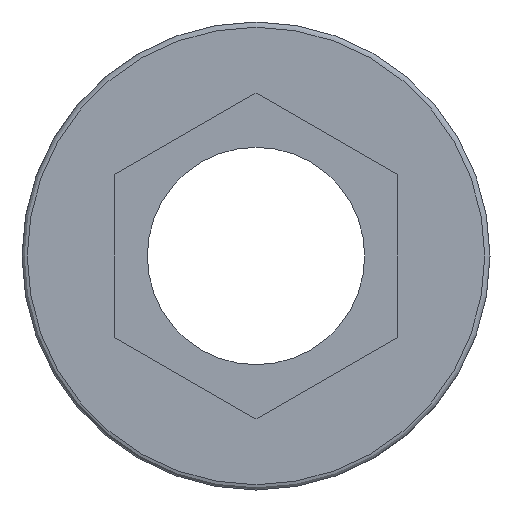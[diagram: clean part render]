
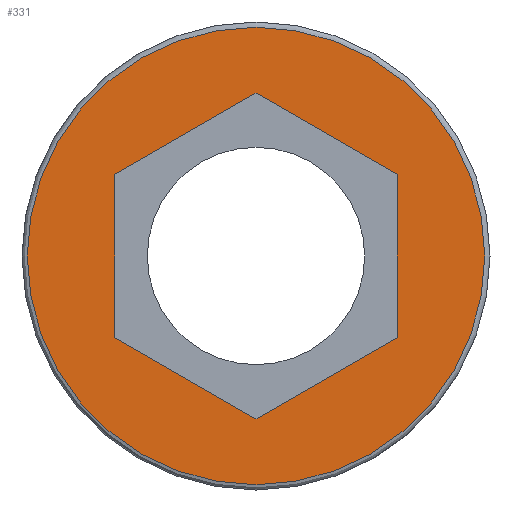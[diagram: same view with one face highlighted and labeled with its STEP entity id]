
A CAD part, front view. The second image highlights one B-rep face of the part: STEP entity #331.
In plain terms, the highlighted planar face has unit normal (0, -1, 0).
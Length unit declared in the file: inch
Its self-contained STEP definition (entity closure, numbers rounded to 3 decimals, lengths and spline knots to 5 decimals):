
#17=FACE_BOUND('',#108,.T.);
#22=PLANE('',#378);
#34=LINE('',#550,#57);
#35=LINE('',#552,#58);
#36=LINE('',#554,#59);
#37=LINE('',#556,#60);
#38=LINE('',#558,#61);
#39=LINE('',#559,#62);
#57=VECTOR('',#446,0.3937);
#58=VECTOR('',#447,0.3937);
#59=VECTOR('',#448,0.3937);
#60=VECTOR('',#449,0.3937);
#61=VECTOR('',#450,0.3937);
#62=VECTOR('',#451,0.3937);
#87=FACE_OUTER_BOUND('',#107,.T.);
#107=EDGE_LOOP('',(#253,#254));
#108=EDGE_LOOP('',(#255,#256,#257,#258,#259,#260));
#132=CIRCLE('',#370,0.303);
#136=CIRCLE('',#374,0.303);
#155=VERTEX_POINT('',#532);
#156=VERTEX_POINT('',#533);
#161=VERTEX_POINT('',#548);
#162=VERTEX_POINT('',#549);
#163=VERTEX_POINT('',#551);
#164=VERTEX_POINT('',#553);
#165=VERTEX_POINT('',#555);
#166=VERTEX_POINT('',#557);
#190=EDGE_CURVE('',#155,#156,#132,.T.);
#194=EDGE_CURVE('',#156,#155,#136,.T.);
#198=EDGE_CURVE('',#161,#162,#34,.T.);
#199=EDGE_CURVE('',#162,#163,#35,.T.);
#200=EDGE_CURVE('',#163,#164,#36,.T.);
#201=EDGE_CURVE('',#164,#165,#37,.T.);
#202=EDGE_CURVE('',#165,#166,#38,.T.);
#203=EDGE_CURVE('',#166,#161,#39,.T.);
#253=ORIENTED_EDGE('',*,*,#190,.F.);
#254=ORIENTED_EDGE('',*,*,#194,.F.);
#255=ORIENTED_EDGE('',*,*,#198,.T.);
#256=ORIENTED_EDGE('',*,*,#199,.T.);
#257=ORIENTED_EDGE('',*,*,#200,.T.);
#258=ORIENTED_EDGE('',*,*,#201,.T.);
#259=ORIENTED_EDGE('',*,*,#202,.T.);
#260=ORIENTED_EDGE('',*,*,#203,.T.);
#331=ADVANCED_FACE('',(#87,#17),#22,.T.);
#370=AXIS2_PLACEMENT_3D('',#534,#427,#428);
#374=AXIS2_PLACEMENT_3D('',#540,#435,#436);
#378=AXIS2_PLACEMENT_3D('',#547,#444,#445);
#427=DIRECTION('center_axis',(0.,1.,0.));
#428=DIRECTION('ref_axis',(0.,0.,1.));
#435=DIRECTION('center_axis',(0.,1.,0.));
#436=DIRECTION('ref_axis',(0.,0.,1.));
#444=DIRECTION('center_axis',(0.,-1.,0.));
#445=DIRECTION('ref_axis',(0.,0.,-1.));
#446=DIRECTION('',(0.866,0.,-0.5));
#447=DIRECTION('',(0.,0.,-1.));
#448=DIRECTION('',(-0.866,0.,-0.5));
#449=DIRECTION('',(-0.866,0.,0.5));
#450=DIRECTION('',(0.,0.,1.));
#451=DIRECTION('',(0.866,0.,0.5));
#532=CARTESIAN_POINT('',(0.,0.,-0.303));
#533=CARTESIAN_POINT('',(0.,0.,0.303));
#534=CARTESIAN_POINT('Origin',(0.,0.,0.));
#540=CARTESIAN_POINT('Origin',(0.,0.,0.));
#547=CARTESIAN_POINT('Origin',(0.,0.,-0.144));
#548=CARTESIAN_POINT('',(0.,0.,0.21593));
#549=CARTESIAN_POINT('',(0.187,0.,0.10796));
#550=CARTESIAN_POINT('',(0.07793,0.,0.17094));
#551=CARTESIAN_POINT('',(0.187,0.,-0.10796));
#552=CARTESIAN_POINT('',(0.187,0.,-0.01802));
#553=CARTESIAN_POINT('',(0.,0.,-0.21593));
#554=CARTESIAN_POINT('',(0.10907,0.,-0.15296));
#555=CARTESIAN_POINT('',(-0.187,0.,-0.10796));
#556=CARTESIAN_POINT('',(-0.01557,0.,-0.20694));
#557=CARTESIAN_POINT('',(-0.187,0.,0.10796));
#558=CARTESIAN_POINT('',(-0.187,0.,-0.12598));
#559=CARTESIAN_POINT('',(-0.17143,0.,0.11696));
